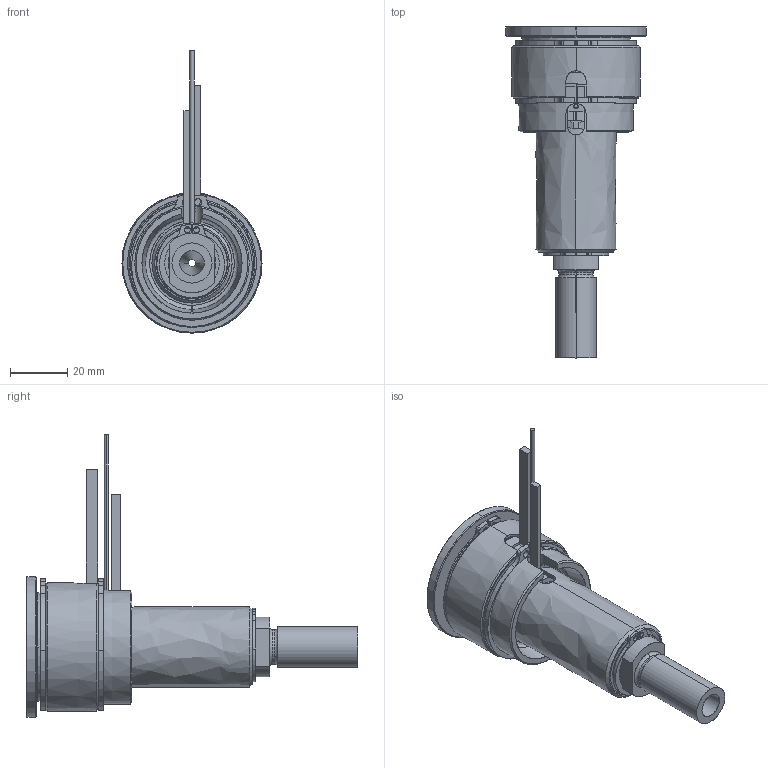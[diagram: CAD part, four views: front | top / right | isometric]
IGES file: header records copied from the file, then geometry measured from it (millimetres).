
Start section: SolidWorks IGES file using analytic representation for surfaces
Global section: file name: C:\Documents and Settings\ws-20\Desktop\TEM\UGBE4501-S-A-P-5 [Ød-2.5 P-25 ØC-10].IGS; native system: SolidWorks 2012; preprocessor: SolidWorks 2012; author: ws-20; date: 120412.154332; units: millimetre
Bounding box: 49 x 116 x 98.65 mm (x, y, z)
Surface area: 41246.6 mm2 (no closed solid volume)
Topology: 0 solids, 0 shells, 167 faces, 3157 edges, 3157 vertices
Faces by surface type: revolution 106, bspline 61
